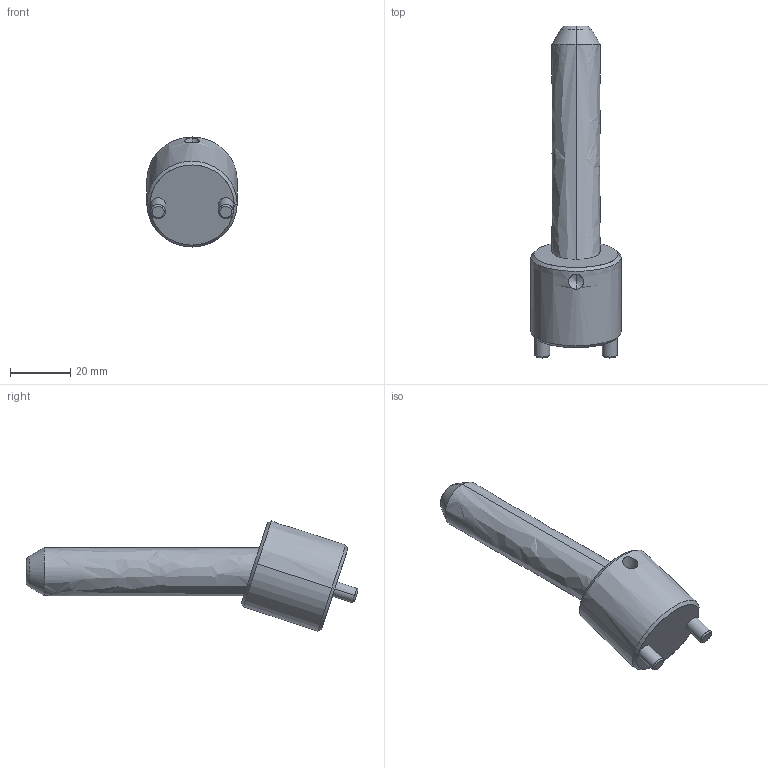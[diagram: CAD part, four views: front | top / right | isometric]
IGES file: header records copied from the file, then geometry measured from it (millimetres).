
Start section: START RECORD GO HERE.
Global section: file name: CI1816075.igs; native system: DASSAULT SYSTEMES CATIA V5 R20 - www.3ds.com; preprocessor: CATIA Version 5 Release 20 ; author: r.borello; organization: CFTORINO; date: 20190624.094236; units: millimetre
Bounding box: 30 x 110.31 x 36.57 mm (x, y, z)
Surface area: 10697.7 mm2 (no closed solid volume)
Topology: 0 solids, 0 shells, 39 faces, 162 edges, 160 vertices
Faces by surface type: revolution 32, plane 7
